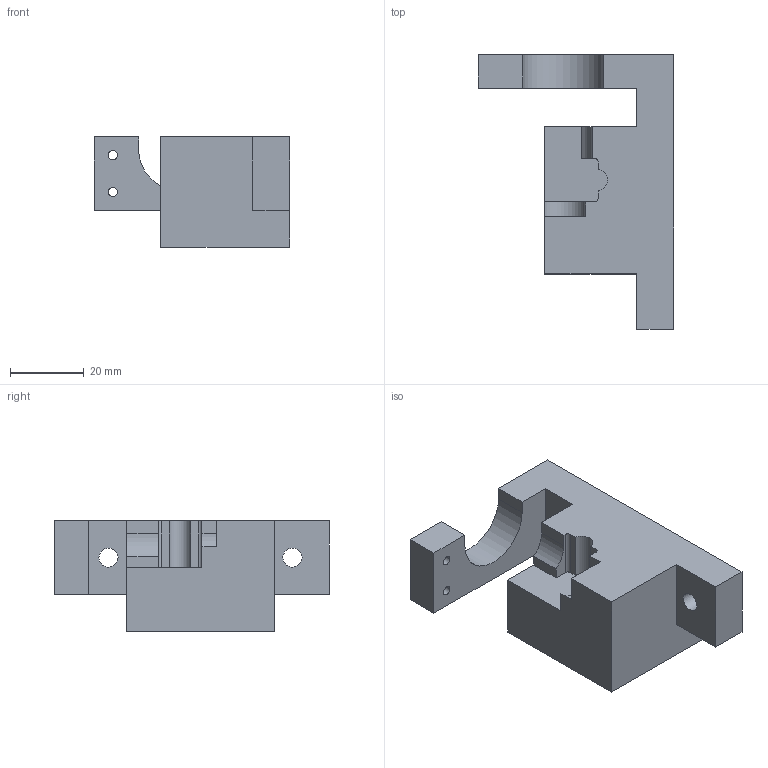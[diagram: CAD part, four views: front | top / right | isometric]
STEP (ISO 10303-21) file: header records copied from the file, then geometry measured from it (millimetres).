
FILE_DESCRIPTION(('CATIA V5 STEP Exchange'),'2;1');
FILE_NAME('C:\Users\hh\Desktop\新建文件夹 (2)\AGZ114.02_V1.stp','2024-11-15T05:28:53+00:00',('none'),('none'),'CATIA Version 5 Release 21 GA (IN-10)','CATIA V5 STEP AP214','none');
FILE_SCHEMA(('AUTOMOTIVE_DESIGN { 1 0 10303 214 1 1 1 1 }'));
Length unit declared in the file: millimetre
Products named in the file (1): 固定座05
Bounding box: 53 x 74.6 x 30 mm (x, y, z)
Volume: 49451.7 mm3; surface area: 12372.5 mm2
Topology: 1 solids, 1 shells, 56 faces, 151 edges, 101 vertices
Faces by surface type: plane 30, cylinder 26
Entity records: 1731 total; most frequent: CARTESIAN_POINT 323, ORIENTED_EDGE 302, DIRECTION 240, EDGE_CURVE 151, VECTOR 103, LINE 103, VERTEX_POINT 101, AXIS2_PLACEMENT_3D 92
